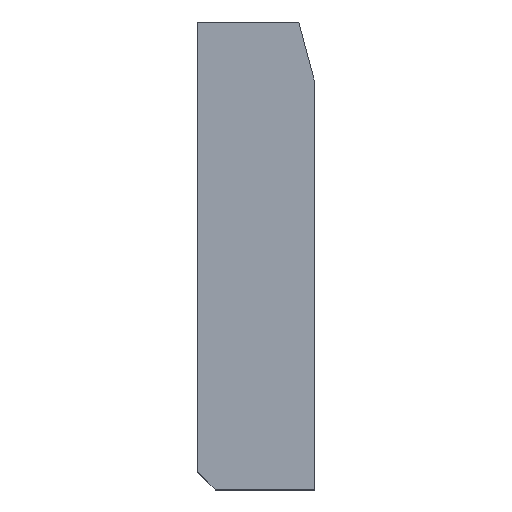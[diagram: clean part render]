
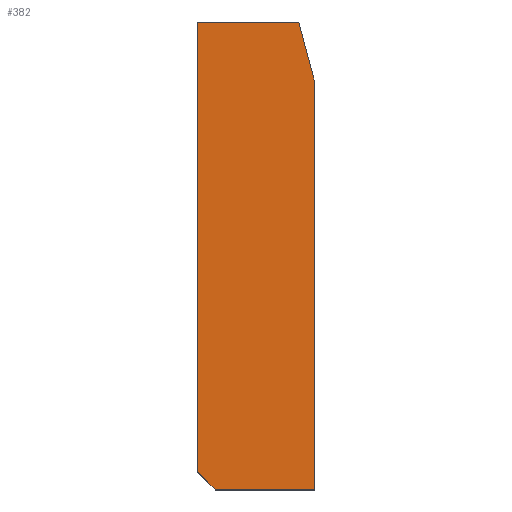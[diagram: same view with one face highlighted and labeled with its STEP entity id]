
A CAD part, top view. The second image highlights one B-rep face of the part: STEP entity #382.
In plain terms, the highlighted planar face has unit normal (0, 0, 1).
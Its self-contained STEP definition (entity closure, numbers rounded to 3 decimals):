
#70=CARTESIAN_POINT('Vertex',(0.,3.,40.)) ;
#73=CARTESIAN_POINT('Line Origine',(0.,41.5,40.)) ;
#77=CARTESIAN_POINT('Vertex',(0.,80.,40.)) ;
#320=CARTESIAN_POINT('Vertex',(3.,0.,40.)) ;
#323=CARTESIAN_POINT('Line Origine',(1.5,1.5,40.)) ;
#335=CARTESIAN_POINT('Axis2P3D Location',(15.,69.342,40.)) ;
#340=CARTESIAN_POINT('Line Origine',(11.5,0.,40.)) ;
#344=CARTESIAN_POINT('Vertex',(20.,0.,40.)) ;
#347=CARTESIAN_POINT('Line Origine',(20.,34.671,40.)) ;
#351=CARTESIAN_POINT('Vertex',(20.,69.342,40.)) ;
#354=CARTESIAN_POINT('Axis2P3D Location',(15.,69.342,40.)) ;
#358=CARTESIAN_POINT('Vertex',(19.83,70.636,40.)) ;
#361=CARTESIAN_POINT('Line Origine',(18.575,75.318,40.)) ;
#365=CARTESIAN_POINT('Vertex',(17.321,80.,40.)) ;
#368=CARTESIAN_POINT('Line Origine',(8.66,80.,40.)) ;
#74=DIRECTION('Vector Direction',(0.,-1.,0.)) ;
#324=DIRECTION('Vector Direction',(0.707,-0.707,0.)) ;
#336=DIRECTION('Axis2P3D Direction',(0.,0.,1.)) ;
#337=DIRECTION('Axis2P3D XDirection',(1.,0.,-0.)) ;
#341=DIRECTION('Vector Direction',(1.,0.,0.)) ;
#348=DIRECTION('Vector Direction',(0.,1.,0.)) ;
#355=DIRECTION('Axis2P3D Direction',(0.,0.,1.)) ;
#362=DIRECTION('Vector Direction',(-0.259,0.966,0.)) ;
#369=DIRECTION('Vector Direction',(-1.,0.,0.)) ;
#338=AXIS2_PLACEMENT_3D('Plane Axis2P3D',#335,#336,#337) ;
#356=AXIS2_PLACEMENT_3D('Circle Axis2P3D',#354,#355,$) ;
#374=ORIENTED_EDGE('',*,*,#79,.T.) ;
#375=ORIENTED_EDGE('',*,*,#327,.T.) ;
#376=ORIENTED_EDGE('',*,*,#346,.T.) ;
#377=ORIENTED_EDGE('',*,*,#353,.T.) ;
#378=ORIENTED_EDGE('',*,*,#360,.T.) ;
#379=ORIENTED_EDGE('',*,*,#367,.T.) ;
#380=ORIENTED_EDGE('',*,*,#372,.T.) ;
#75=VECTOR('Line Direction',#74,1.) ;
#325=VECTOR('Line Direction',#324,1.) ;
#342=VECTOR('Line Direction',#341,1.) ;
#349=VECTOR('Line Direction',#348,1.) ;
#363=VECTOR('Line Direction',#362,1.) ;
#370=VECTOR('Line Direction',#369,1.) ;
#382=ADVANCED_FACE('A915-80X80',(#381),#339,.T.) ;
#357=CIRCLE('generated circle',#356,5.) ;
#79=EDGE_CURVE('',#78,#71,#76,.T.) ;
#327=EDGE_CURVE('',#71,#321,#326,.T.) ;
#346=EDGE_CURVE('',#321,#345,#343,.T.) ;
#353=EDGE_CURVE('',#345,#352,#350,.T.) ;
#360=EDGE_CURVE('',#352,#359,#357,.T.) ;
#367=EDGE_CURVE('',#359,#366,#364,.T.) ;
#372=EDGE_CURVE('',#366,#78,#371,.T.) ;
#373=EDGE_LOOP('',(#374,#375,#376,#377,#378,#379,#380)) ;
#381=FACE_OUTER_BOUND('',#373,.T.) ;
#76=LINE('Line',#73,#75) ;
#326=LINE('Line',#323,#325) ;
#343=LINE('Line',#340,#342) ;
#350=LINE('Line',#347,#349) ;
#364=LINE('Line',#361,#363) ;
#371=LINE('Line',#368,#370) ;
#339=PLANE('Plane',#338) ;
#71=VERTEX_POINT('',#70) ;
#78=VERTEX_POINT('',#77) ;
#321=VERTEX_POINT('',#320) ;
#345=VERTEX_POINT('',#344) ;
#352=VERTEX_POINT('',#351) ;
#359=VERTEX_POINT('',#358) ;
#366=VERTEX_POINT('',#365) ;
